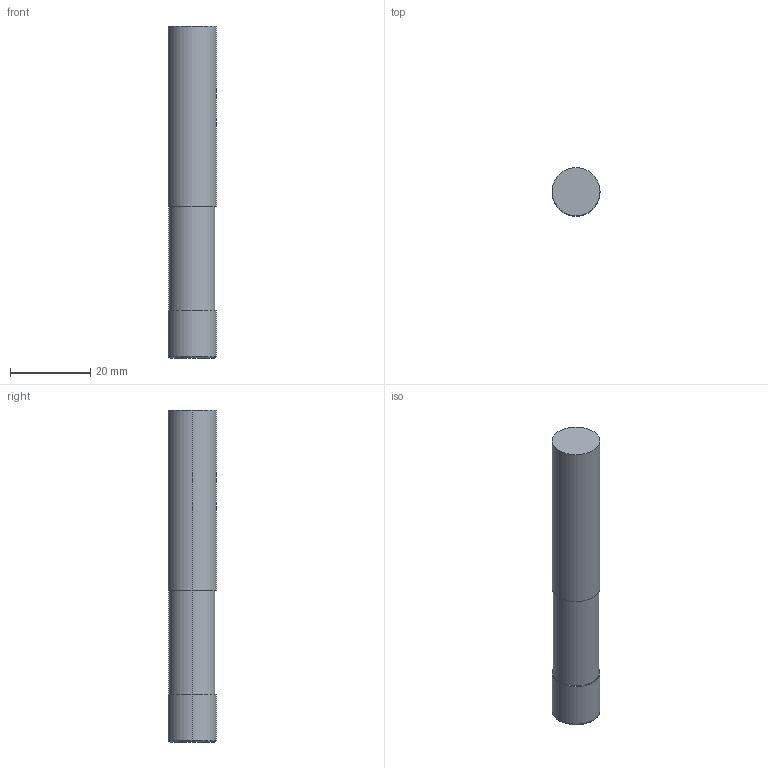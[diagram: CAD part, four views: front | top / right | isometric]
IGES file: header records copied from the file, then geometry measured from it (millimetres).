
Start section: 3D InterOp IGES (v. 2020 1.0.1), Spatial Corp. Copyright (c) 1999-2017.
Global section: file name: WZF17418_12_0.5.igs; native system: Spatial Corp.; preprocessor: 3D InterOp GENERIC/IGES 3.0; author: Noname; organization: Noname; date: 20201007.092636; units: metre
Bounding box: 12 x 12 x 83 mm (x, y, z)
Surface area: 3324.6 mm2 (no closed solid volume)
Topology: 0 solids, 0 shells, 12 faces, 44 edges, 44 vertices
Faces by surface type: revolution 8, extrusion 4
